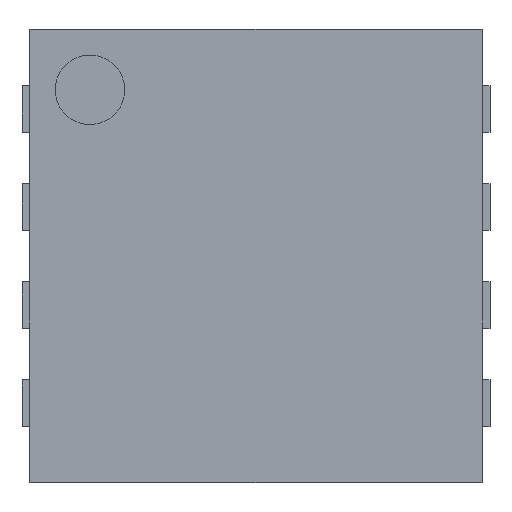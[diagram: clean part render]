
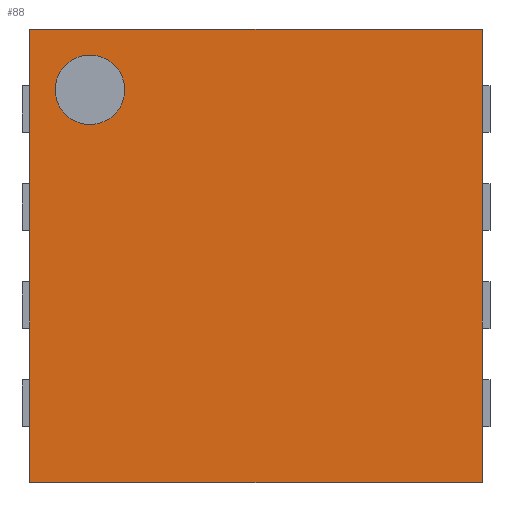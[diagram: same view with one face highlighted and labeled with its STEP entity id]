
A CAD part, top view. The second image highlights one B-rep face of the part: STEP entity #88.
In plain terms, the highlighted planar face has unit normal (0, 0, 1).
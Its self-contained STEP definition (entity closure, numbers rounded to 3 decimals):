
#24 = VERTEX_POINT('',#25);
#25 = CARTESIAN_POINT('',(-1.5,-1.5,1.05));
#40 = VERTEX_POINT('',#41);
#41 = CARTESIAN_POINT('',(-1.5,1.5,1.05));
#47 = EDGE_CURVE('',#24,#40,#48,.T.);
#48 = LINE('',#49,#50);
#49 = CARTESIAN_POINT('',(-1.5,-1.5,1.05));
#50 = VECTOR('',#51,1.);
#51 = DIRECTION('',(0.,1.,0.));
#70 = EDGE_CURVE('',#24,#71,#73,.T.);
#71 = VERTEX_POINT('',#72);
#72 = CARTESIAN_POINT('',(1.5,-1.5,1.05));
#73 = LINE('',#74,#75);
#74 = CARTESIAN_POINT('',(-1.5,-1.5,1.05));
#75 = VECTOR('',#76,1.);
#76 = DIRECTION('',(1.,0.,0.));
#88 = ADVANCED_FACE('',(#89,#107),#118,.T.);
#89 = FACE_BOUND('',#90,.T.);
#90 = EDGE_LOOP('',(#91,#92,#93,#101));
#91 = ORIENTED_EDGE('',*,*,#47,.F.);
#92 = ORIENTED_EDGE('',*,*,#70,.T.);
#93 = ORIENTED_EDGE('',*,*,#94,.T.);
#94 = EDGE_CURVE('',#71,#95,#97,.T.);
#95 = VERTEX_POINT('',#96);
#96 = CARTESIAN_POINT('',(1.5,1.5,1.05));
#97 = LINE('',#98,#99);
#98 = CARTESIAN_POINT('',(1.5,-1.5,1.05));
#99 = VECTOR('',#100,1.);
#100 = DIRECTION('',(0.,1.,0.));
#101 = ORIENTED_EDGE('',*,*,#102,.F.);
#102 = EDGE_CURVE('',#40,#95,#103,.T.);
#103 = LINE('',#104,#105);
#104 = CARTESIAN_POINT('',(-1.5,1.5,1.05));
#105 = VECTOR('',#106,1.);
#106 = DIRECTION('',(1.,0.,0.));
#107 = FACE_BOUND('',#108,.T.);
#108 = EDGE_LOOP('',(#109));
#109 = ORIENTED_EDGE('',*,*,#110,.F.);
#110 = EDGE_CURVE('',#111,#111,#113,.T.);
#111 = VERTEX_POINT('',#112);
#112 = CARTESIAN_POINT('',(-0.87,1.1,1.05));
#113 = CIRCLE('',#114,0.23);
#114 = AXIS2_PLACEMENT_3D('',#115,#116,#117);
#115 = CARTESIAN_POINT('',(-1.1,1.1,1.05));
#116 = DIRECTION('',(0.,0.,1.));
#117 = DIRECTION('',(1.,0.,0.));
#118 = PLANE('',#119);
#119 = AXIS2_PLACEMENT_3D('',#120,#121,#122);
#120 = CARTESIAN_POINT('',(-1.5,-1.5,1.05));
#121 = DIRECTION('',(0.,0.,1.));
#122 = DIRECTION('',(1.,0.,0.));
